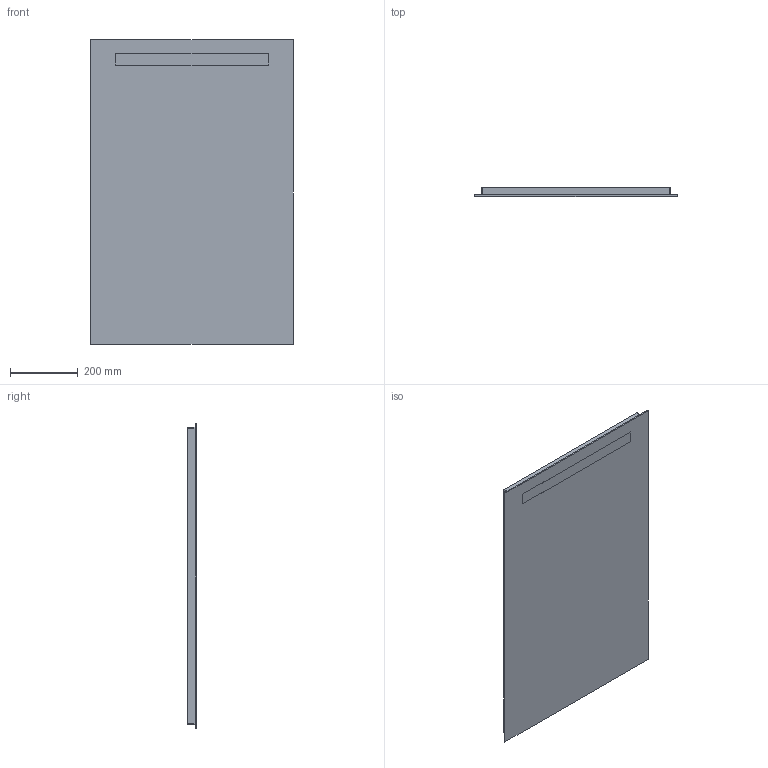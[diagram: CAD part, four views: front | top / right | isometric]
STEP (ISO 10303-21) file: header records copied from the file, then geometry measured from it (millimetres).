
FILE_DESCRIPTION(/* description */ (''),/* implementation_level */ '2;1');
FILE_NAME(/* name */ 'C:\Planerdaten\Export PLA\502.812.00.1\stp\502812.stp',/* time_stamp */ '2022-12-02T15:15:27+01:00',/* author */ ('JANAN'),/* organization */ (''),/* preprocessor_version */ 'ST-DEVELOPER v18.1',/* originating_system */ 'Autodesk Inventor 2021',/* authorisation */ '');
FILE_SCHEMA (('AUTOMOTIVE_DESIGN { 1 0 10303 214 3 1 1 }'));
Length unit declared in the file: millimetre
Products named in the file (1): tmp753F.tmp
Bounding box: 600 x 26 x 900 mm (x, y, z)
Volume: 12997844.4 mm3; surface area: 2141933.5 mm2
Topology: 2 solids, 2 shells, 29 faces, 68 edges, 48 vertices
Faces by surface type: plane 21, cylinder 8
Full cylindrical faces by diameter (mm): 8 x4
Entity records: 937 total; most frequent: DIRECTION 152, CARTESIAN_POINT 146, ORIENTED_EDGE 136, EDGE_CURVE 68, AXIS2_PLACEMENT_3D 54, VERTEX_POINT 48, LINE 44, VECTOR 44
